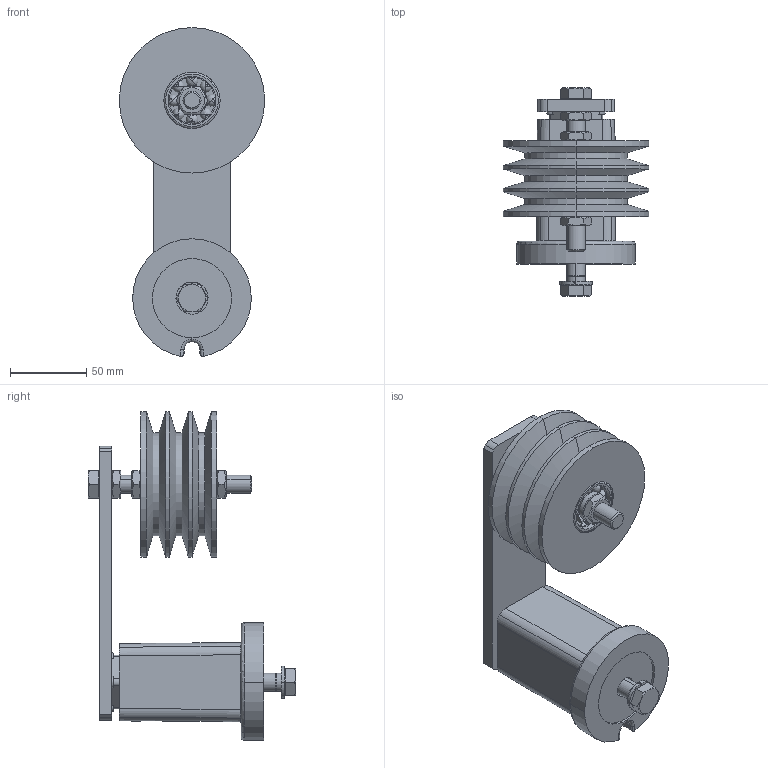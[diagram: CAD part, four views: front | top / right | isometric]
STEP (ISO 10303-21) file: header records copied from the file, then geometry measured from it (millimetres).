
FILE_DESCRIPTION((''),'2;1');
FILE_NAME('\\rostaofc\data\uw\save\daten_f\Normprogramm 3D\Spannelemente\KSE27-SPA3_06201006.stp','2004-09-28T11:21:14',('uw'),(''),'Autodesk Inventor 8','Autodesk Inventor 8','');
FILE_SCHEMA(('AUTOMOTIVE_DESIGN { 1 0 10303 214 1 1 1 1 }'));
Length unit declared in the file: millimetre
Products named in the file (17): ROSTA-Spannelement KSE 27 SPA 90-3; SE27; Spannelement-Gehäuse SE27; Gehäuse; Innenteil zu SE27; Hebel zu SE27 (m. 2- Loch); 3_10_6665-001; 3_10_6673-002; Sechskantschraube - M12 x 40; Federring - A12; SK3200-003; Keilriemenscheibe SPA 90-3 komplett; Keilriemenscheibe SPA 90-3 bearbeitet; C3; Distanzbüchse zu Keilriemenscheibe SPA 90-3; Sechskantmutter - M12; Sechskantschraube - M12 x 100
Assembly tree (22 placements, depth 4):
  ROSTA-Spannelement KSE 27 SPA 90-3
    SE27
      Spannelement-Gehäuse SE27
        Gehäuse
      Innenteil zu SE27
        Hebel zu SE27 (m. 2- Loch)
        3_10_6665-001
      3_10_6673-002  x4
      Sechskantschraube - M12 x 40
      Federring - A12
      SK3200-003
    Keilriemenscheibe SPA 90-3 komplett
      Keilriemenscheibe SPA 90-3 bearbeitet
      C3  x2
      Distanzbüchse zu Keilriemenscheibe SPA 90-3
    Sechskantmutter - M12  x3
    Sechskantschraube - M12 x 100
Bounding box: 95.6 x 136.5 x 216.08 mm (x, y, z)
Volume: 549271.8 mm3; surface area: 168116.4 mm2
Topology: 20 solids, 36 shells, 495 faces, 1248 edges, 709 vertices
Faces by surface type: cylinder 148, plane 136, bspline 90, cone 57, sphere 42, torus 22
Entity records: 11713 total; most frequent: CARTESIAN_POINT 2769, DIRECTION 1999, ORIENTED_EDGE 1700, EDGE_CURVE 850, AXIS2_PLACEMENT_3D 839, VERTEX_POINT 515, CIRCLE 448, EDGE_LOOP 416
